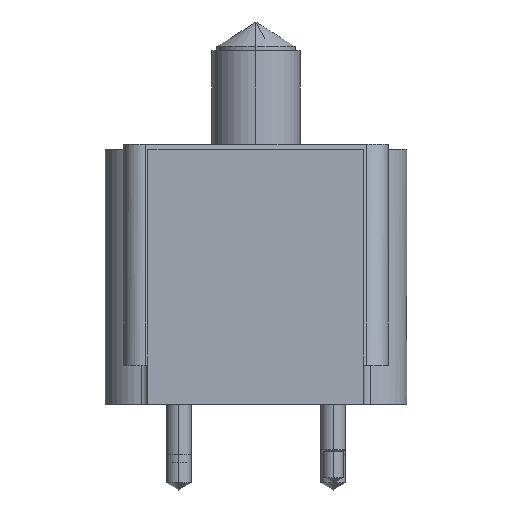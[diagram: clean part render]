
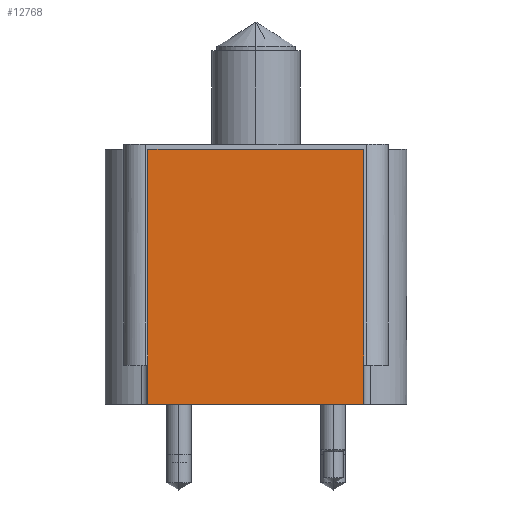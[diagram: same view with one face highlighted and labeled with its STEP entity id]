
A CAD part, left-side view. The second image highlights one B-rep face of the part: STEP entity #12768.
In plain terms, the highlighted planar face has unit normal (-1, 0, 0).
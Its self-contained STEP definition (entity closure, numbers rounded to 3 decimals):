
#12400=CARTESIAN_POINT('',(-84.201,34.988,82.55));
#12401=VERTEX_POINT('',#12400);
#12408=CARTESIAN_POINT('',(-84.201,-34.988,82.55));
#12409=VERTEX_POINT('',#12408);
#12410=CARTESIAN_POINT('',(-84.201,0.0,82.55));
#12411=DIRECTION('',(0.0,1.0,0.0));
#12412=VECTOR('',#12411,1.0);
#12413=LINE('',#12410,#12412);
#12414=EDGE_CURVE('',#12409,#12401,#12413,.T.);
#12738=CARTESIAN_POINT('',(-84.201,34.988,0.0));
#12739=VERTEX_POINT('',#12738);
#12740=CARTESIAN_POINT('',(-84.201,34.988,0.0));
#12741=DIRECTION('',(0.0,0.0,1.0));
#12742=VECTOR('',#12741,1.0);
#12743=LINE('',#12740,#12742);
#12744=EDGE_CURVE('',#12739,#12401,#12743,.T.);
#12745=ORIENTED_EDGE('',*,*,#12744,.F.);
#12746=CARTESIAN_POINT('',(-84.201,-34.988,0.0));
#12747=VERTEX_POINT('',#12746);
#12748=CARTESIAN_POINT('',(-84.201,0.0,0.0));
#12749=DIRECTION('',(0.0,-1.0,0.0));
#12750=VECTOR('',#12749,1.0);
#12751=LINE('',#12748,#12750);
#12752=EDGE_CURVE('',#12739,#12747,#12751,.T.);
#12753=ORIENTED_EDGE('',*,*,#12752,.T.);
#12754=CARTESIAN_POINT('',(-84.201,-34.988,0.0));
#12755=DIRECTION('',(0.0,0.0,-1.0));
#12756=VECTOR('',#12755,1.0);
#12757=LINE('',#12754,#12756);
#12758=EDGE_CURVE('',#12409,#12747,#12757,.T.);
#12759=ORIENTED_EDGE('',*,*,#12758,.F.);
#12760=ORIENTED_EDGE('',*,*,#12414,.T.);
#12761=EDGE_LOOP('',(#12745,#12753,#12759,#12760));
#12762=FACE_OUTER_BOUND('',#12761,.T.);
#12763=CARTESIAN_POINT('',(-84.201,0.0,0.0));
#12764=DIRECTION('',(-1.0,0.0,-0.0));
#12765=DIRECTION('',(-0.0,0.0,1.0));
#12766=AXIS2_PLACEMENT_3D('',#12763,#12764,#12765);
#12767=PLANE('',#12766);
#12768=ADVANCED_FACE('',(#12762),#12767,.T.);
